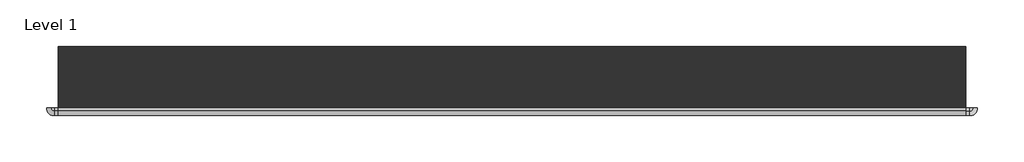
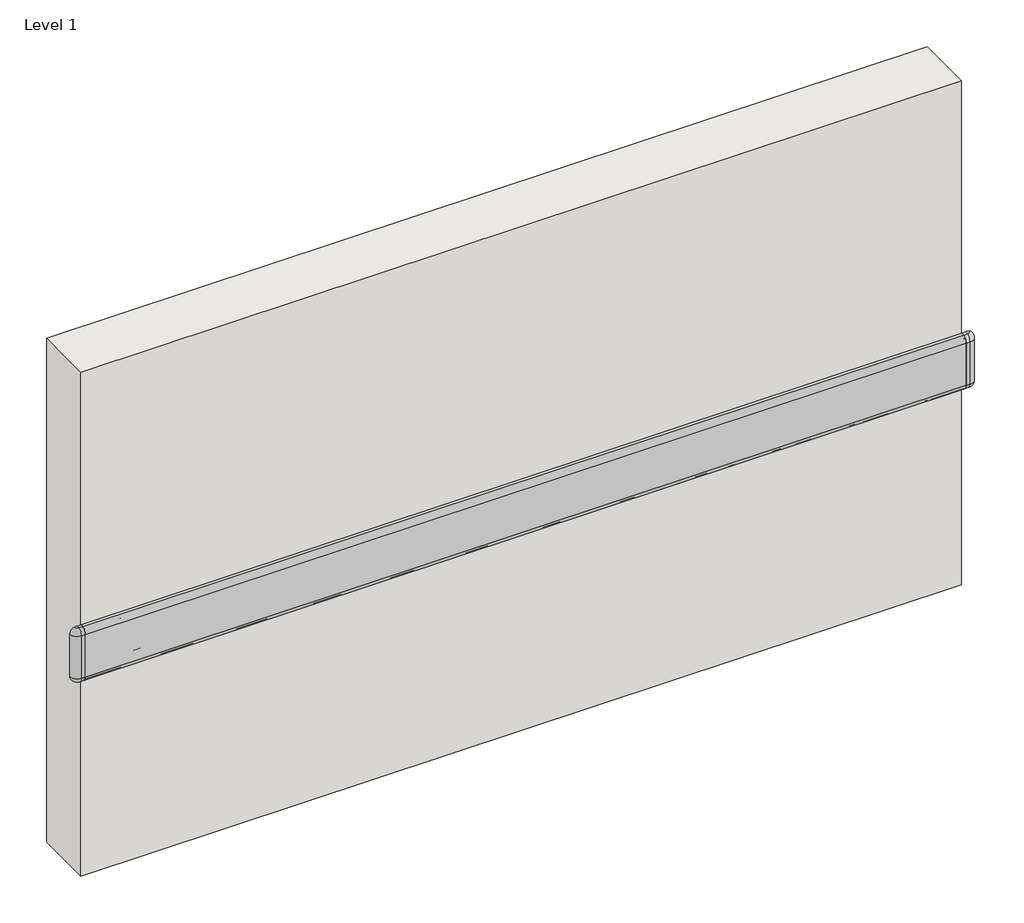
# One storey: 1 railing, 1 wall.
"""IFC4 building model written with IfcOpenShell, lengths in millimetres."""

from ifc_helpers import new_model, si_unit, origin, origin_with_axes, place, context, project, spatial, polyline, outline, extrude, transform, mapped, element, save
from components import railing_e686fe90

model = new_model("IFC4")

# Units and contexts
model_context = context("Model", 3, world=origin())
ifc_project = project(units=[si_unit("LENGTHUNIT", "METRE", prefix="MILLI")], contexts=[model_context])

# Site, building, storey
site = spatial("IfcSite", under=ifc_project)
building = spatial("IfcBuilding", under=site)
storey = spatial("IfcBuildingStorey", under=building, Name="Level 1", Elevation=0.0)

# Railing
placement = place(None, origin())
railing_shape = railing_e686fe90(model_context)
element("IfcRailing", 1, ObjectType="Wall Guard-InPro-700-WG-Concrete", at=placement, inside=storey, context=model_context, shape_type="MappedRepresentation", body=[
    mapped(railing_shape, transform((0.0, 0.0, 0.0), x_axis=(1.0, 0.0, 0.0), y_axis=(0.0, 1.0, 0.0), z_axis=(0.0, 0.0, 1.0))),
])

# Wall
element("IfcWall", 2, ObjectType="Wall 1", at=placement, inside=storey, context=model_context, shape_type="SweptSolid", body=[
    extrude(outline(polyline([(-24341.909124, 14393.0919835), (-27364.509124, 14393.0919835), (-27364.509124, 14596.2919835), (-24341.909124, 14596.2919835), (-24341.909124, 14393.0919835)])), origin_with_axes(), (0.0, 0.0, 1.0), 1828.8),
])

save(model, "model.ifc")
